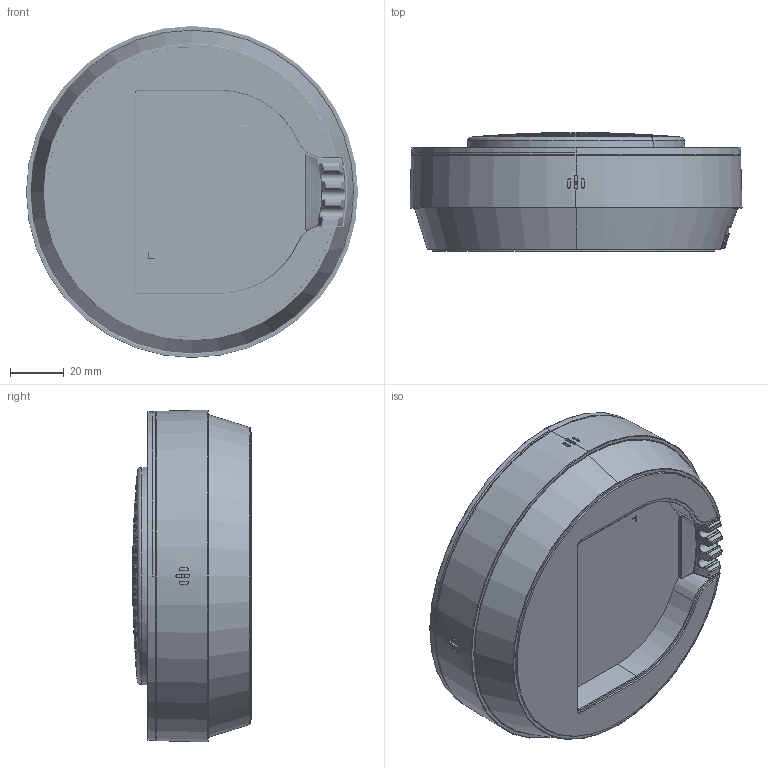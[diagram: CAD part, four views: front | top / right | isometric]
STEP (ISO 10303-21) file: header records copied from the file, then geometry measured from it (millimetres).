
FILE_DESCRIPTION((''),'2;1');
FILE_NAME('0_SPK300-000_ASM','2026-05-06T09:14:32',('Proitav'),(''),'CREO PARAMETRIC BY PTC INC, 2018050','CREO PARAMETRIC BY PTC INC, 2018050','');
FILE_SCHEMA(('CONFIG_CONTROL_DESIGN','GEOMETRIC_VALIDATION_PROPERTIES_MIM'));
Products named in the file (26): USP-G-008-ZK; USP-G-008-CMG; A-2; G-3; G-0_ASM; USP-G-008-DGQ; JANLITA-16NL07-4O-3W-STEREO; USP-G-008-JANLITA-STEREO; JANLITA-STEREO_ASM; SPK300-000-DG; TONGLMU; SPK300-000_DG_ASM; TYP-C-H260081001200; H1200100FVD00-MI-USB; PM; PZ; DC-006; PCB-TYPE-C_ASM; M-SGCC; M-JD; MGJ; M-GJ_ASM; EVA-1; SPK300-000-DG_ASM; USP-G-008-MIC-GB; 0_SPK300-000_ASM
Assembly tree (30 placements, depth 4):
  0_SPK300-000_ASM
    USP-G-008-ZK
    USP-G-008-CMG
    G-0_ASM
      A-2
      G-3
    USP-G-008-DGQ
    JANLITA-STEREO_ASM
      JANLITA-16NL07-4O-3W-STEREO
      USP-G-008-JANLITA-STEREO
    SPK300-000-DG_ASM
      SPK300-000_DG_ASM
        SPK300-000-DG
        TONGLMU  x2
      PCB-TYPE-C_ASM
        TYP-C-H260081001200
        H1200100FVD00-MI-USB  x2
        PM
        PZ
        DC-006
      M-SGCC
      M-JD
      M-GJ_ASM
        MGJ
      EVA-1
    USP-G-008-MIC-GB  x4
Bounding box: 123.01 x 44 x 123.01 mm (x, y, z)
Volume: 137527.4 mm3; surface area: 174358.3 mm2
Topology: 24 solids, 24 shells, 6442 faces, 17690 edges, 11531 vertices
Faces by surface type: plane 3054, extrusion 1492, cone 868, cylinder 550, bspline 317, torus 100, sphere 37, revolution 24
Entity records: 250712 total; most frequent: CARTESIAN_POINT 85628, ORIENTED_EDGE 32356, DIRECTION 23916, EDGE_CURVE 16178, VERTEX_POINT 10587, VECTOR 9726, LINE 8234, EDGE_LOOP 7283
